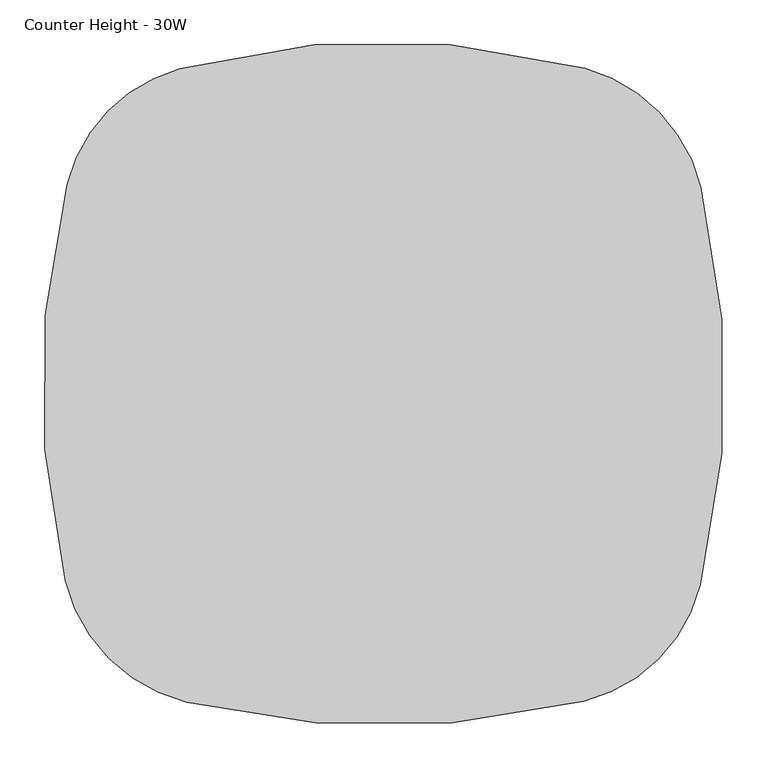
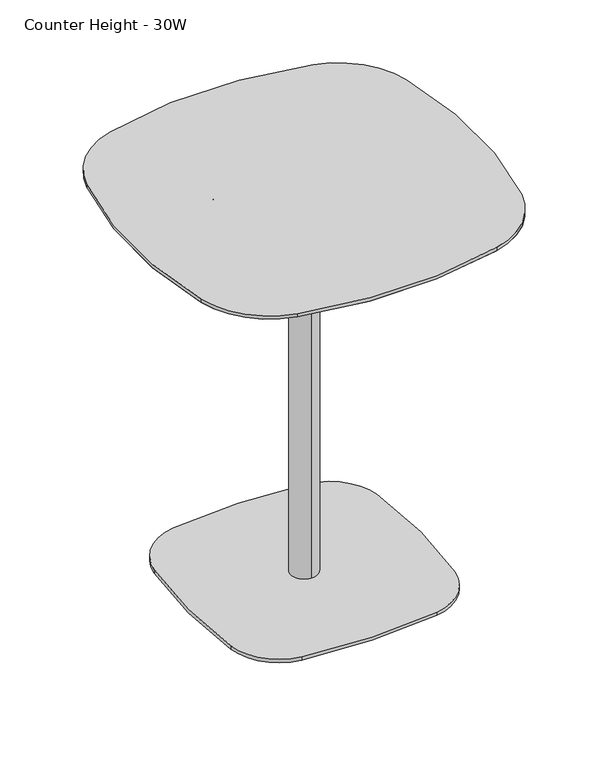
"""IFC4 building model written with IfcOpenShell, lengths in millimetres: furniture geometry, Steelcase Coalesse - Enea Lottus - Table - Cafe : Counter Height - 30W."""

import ifcopenshell
import ifcopenshell.guid

model = None  # the IFC model being written
_history = None  # IfcOwnerHistory: only IFC2X3 demands one
_inside = {}  # id of a spatial element -> (the spatial element, [elements in it])
_under = {}  # id of a project, library or spatial element -> (it, [spatial elements below it])
_declared = {}  # id of a project -> (the project, [libraries it declares])
_typed = {}  # id of a type object -> (the type object, [elements of that type])
_made_of = {}  # id of a material, layer set ... -> (it, [elements and type objects made of it])


def new_model(schema):
    """Start an empty IFC model of exactly this schema.

    Asked for "IFC4X3", IfcOpenShell would pick the latest addendum, in which some entities
    have other attributes; the version numbers below select the first issue.
    IFC2X3 requires an IfcOwnerHistory on every rooted entity: one is made here for all.
    """
    global model, _history
    if schema == "IFC4X3":
        model = ifcopenshell.file(schema_version=(4, 3, 0, 0))
    else:
        model = ifcopenshell.file(schema=schema)
    _inside.clear()
    _under.clear()
    _declared.clear()
    _typed.clear()
    _made_of.clear()
    _history = None
    if model.schema == "IFC2X3":
        org = make("IfcOrganization", Name="unknown")
        user = make(
            "IfcPersonAndOrganization",
            ThePerson=make("IfcPerson", FamilyName="unknown"),
            TheOrganization=org,
        )
        app = make(
            "IfcApplication",
            ApplicationDeveloper=org,
            Version="unknown",
            ApplicationFullName="unknown",
            ApplicationIdentifier="unknown",
        )
        _history = make(
            "IfcOwnerHistory",
            OwningUser=user,
            OwningApplication=app,
            ChangeAction="ADDED",
            CreationDate=0,
        )
    return model


def make(cls, **values):
    """One entity of the class cls with the attributes given. An attribute that is None is left unset."""
    return model.create_entity(
        cls, **{name: value for name, value in values.items() if value is not None}
    )


def rooted(cls, **values):
    """An entity with a GlobalId (a new one), such as an element, a storey or a relation."""
    return make(cls, GlobalId=ifcopenshell.guid.new(), OwnerHistory=_history, **values)


def si_unit(unit_type, name, prefix=None):
    """IfcSIUnit, for example si_unit("LENGTHUNIT", "METRE", prefix="MILLI")."""
    return make("IfcSIUnit", UnitType=unit_type, Prefix=prefix, Name=name)


def assignment(units):
    """IfcUnitAssignment: the units of a project."""
    return None if units is None else make("IfcUnitAssignment", Units=units)


def point(xyz):
    """IfcCartesianPoint."""
    return None if xyz is None else make("IfcCartesianPoint", Coordinates=xyz)


def direction(xyz):
    """IfcDirection."""
    return None if xyz is None else make("IfcDirection", DirectionRatios=xyz)


def frame(location, z_axis=None, x_axis=None):
    """IfcAxis2Placement3D, a coordinate frame: its origin and axes. An axis left out is left unset."""
    return make(
        "IfcAxis2Placement3D",
        Location=point(location),
        Axis=direction(z_axis),
        RefDirection=direction(x_axis),
    )


def frame_2d(location, x_axis=None):
    """IfcAxis2Placement2D, a coordinate frame in the plane: its origin and x axis."""
    return make(
        "IfcAxis2Placement2D", Location=point(location), RefDirection=direction(x_axis)
    )


def origin():
    """The frame at (0, 0, 0) with its axes left unset."""
    return frame((0.0, 0.0, 0.0))


def origin_with_axes():
    """The frame at (0, 0, 0) with the z axis (0, 0, 1) and the x axis (1, 0, 0) written out."""
    return frame((0.0, 0.0, 0.0), z_axis=(0.0, 0.0, 1.0), x_axis=(1.0, 0.0, 0.0))


def place(relative_to, where):
    """IfcLocalPlacement: puts the frame where relative to a parent placement (None: the world)."""
    return make(
        "IfcLocalPlacement", PlacementRelTo=relative_to, RelativePlacement=where
    )


def context(
    kind, dimensions, precision=None, world=None, true_north=None, identifier=None
):
    """IfcGeometricRepresentationContext, for example the 3D "Model" context."""
    return make(
        "IfcGeometricRepresentationContext",
        ContextIdentifier=identifier,
        ContextType=kind,
        CoordinateSpaceDimension=dimensions,
        Precision=precision,
        WorldCoordinateSystem=world,
        TrueNorth=true_north,
    )


def project(units=None, contexts=None):
    """IfcProject with its units and contexts."""
    return rooted(
        "IfcProject",
        Name="project",
        RepresentationContexts=contexts,
        UnitsInContext=assignment(units),
    )


def spatial(cls, under=None, at=None, **own):
    """A site, building, storey or space (cls), placed at a placement, below another one or the project."""
    s = rooted(cls, ObjectPlacement=at, **own)
    if under is not None:
        _under.setdefault(under.id(), (under, []))[1].append(s)
    return s


def polyline(points):
    """IfcPolyline through the points."""
    return make("IfcPolyline", Points=[point(p) for p in points])


def circle_curve(where, radius):
    """IfcCircle in the frame where."""
    return make("IfcCircle", Position=where, Radius=radius)


def trimmed(basis, trim1, trim2, sense, master):
    """IfcTrimmedCurve: the piece of a basis curve between two trims."""
    return make(
        "IfcTrimmedCurve",
        BasisCurve=basis,
        Trim1=trim1,
        Trim2=trim2,
        SenseAgreement=sense,
        MasterRepresentation=master,
    )


def segment(curve, same_sense, transition):
    """IfcCompositeCurveSegment."""
    return make(
        "IfcCompositeCurveSegment",
        Transition=transition,
        SameSense=same_sense,
        ParentCurve=curve,
    )


def composite_curve(segments, self_intersect=None):
    """IfcCompositeCurve: segments joined end to end."""
    return make("IfcCompositeCurve", Segments=segments, SelfIntersect=self_intersect)


def outline(outer, holes=None, kind="AREA"):
    """IfcArbitraryClosedProfileDef: a profile drawn as a closed curve; with holes, ...WithVoids."""
    if holes is None:
        return make("IfcArbitraryClosedProfileDef", ProfileType=kind, OuterCurve=outer)
    return make(
        "IfcArbitraryProfileDefWithVoids",
        ProfileType=kind,
        OuterCurve=outer,
        InnerCurves=holes,
    )


def extrude(swept, where, along, depth):
    """IfcExtrudedAreaSolid: the profile swept, set in the frame where, extruded along a direction by depth."""
    return make(
        "IfcExtrudedAreaSolid",
        SweptArea=swept,
        Position=where,
        ExtrudedDirection=direction(along),
        Depth=depth,
    )


def shape(context_of_items, identifier, shape_type, items):
    """IfcShapeRepresentation: the items that make up one representation, for example the "Body"."""
    return make(
        "IfcShapeRepresentation",
        ContextOfItems=context_of_items,
        RepresentationIdentifier=identifier,
        RepresentationType=shape_type,
        Items=items,
    )


def source(mapping_origin, context_of_items, identifier, shape_type, items):
    """IfcRepresentationMap: a shape defined once, which mapped items show again and again."""
    return make(
        "IfcRepresentationMap",
        MappingOrigin=mapping_origin,
        MappedRepresentation=shape(context_of_items, identifier, shape_type, items),
    )


def transform(
    local_origin,
    x_axis=None,
    y_axis=None,
    z_axis=None,
    scale=None,
    scale2=None,
    scale3=None,
    uniform=True,
):
    """IfcCartesianTransformationOperator3D, or its non-uniform kind. x_axis, y_axis, z_axis: its Axis1, 2, 3."""
    if uniform:
        return make(
            "IfcCartesianTransformationOperator3D",
            Axis1=direction(x_axis),
            Axis2=direction(y_axis),
            LocalOrigin=point(local_origin),
            Scale=scale,
            Axis3=direction(z_axis),
        )
    return make(
        "IfcCartesianTransformationOperator3DnonUniform",
        Axis1=direction(x_axis),
        Axis2=direction(y_axis),
        LocalOrigin=point(local_origin),
        Scale=scale,
        Axis3=direction(z_axis),
        Scale2=scale2,
        Scale3=scale3,
    )


def mapped(mapping_source, mapping_target):
    """IfcMappedItem: shows the shape of a source again, moved by a transform."""
    return make(
        "IfcMappedItem", MappingSource=mapping_source, MappingTarget=mapping_target
    )


def made_of(thing, what):
    """Note that an element or type object is made of a material, layer set ...; save() writes the relation."""
    if what is not None:
        _made_of.setdefault(what.id(), (what, []))[1].append(thing)
    return thing


def element(
    cls,
    number,
    at=None,
    inside=None,
    cuts=None,
    type_object=None,
    material=None,
    context=None,
    identifier="Body",
    shape_type=None,
    held_by="IfcProductDefinitionShape",
    body=None,
    shapes=None,
    **own,
):
    """One element of the class cls, such as IfcWall. Its Tag is "e" and its number.

    at: its placement. inside: the storey or other place that contains it. cuts: it is an
    opening in that element (IfcRelVoidsElement). A single representation is given by context,
    identifier, shape_type and body (its items); several are given by shapes. held_by: the class
    of the entity that holds the representations. save() writes the other relations.
    """
    e = rooted(cls, Tag="e%d" % number, ObjectPlacement=at, **own)
    if body is not None:
        shapes = [shape(context, identifier, shape_type, body)]
    if shapes is not None:
        e.Representation = make(held_by, Representations=shapes)
    if inside is not None:
        _inside.setdefault(inside.id(), (inside, []))[1].append(e)
    if cuts is not None:
        rooted(
            "IfcRelVoidsElement", RelatingBuildingElement=cuts, RelatedOpeningElement=e
        )
    if type_object is not None:
        _typed.setdefault(type_object.id(), (type_object, []))[1].append(e)
    return made_of(e, material)


def aggregate(whole, parts):
    """IfcRelAggregates: a whole, such as a stair, and the parts it consists of."""
    return rooted("IfcRelAggregates", RelatingObject=whole, RelatedObjects=parts)


def save(model, path):
    """Write the relations noted so far, then the file.

    IfcRelAggregates (storeys below a building ...), IfcRelContainedInSpatialStructure (elements
    in a storey), IfcRelDefinesByType, IfcRelAssociatesMaterial and IfcRelDeclares: one each for
    every whole, place, type object, material and project.
    """
    for whole, parts in _under.values():
        aggregate(whole, parts)
    for where, things in _inside.values():
        rooted(
            "IfcRelContainedInSpatialStructure",
            RelatedElements=things,
            RelatingStructure=where,
        )
    for kind, things in _typed.values():
        rooted("IfcRelDefinesByType", RelatedObjects=things, RelatingType=kind)
    for what, things in _made_of.values():
        rooted("IfcRelAssociatesMaterial", RelatedObjects=things, RelatingMaterial=what)
    for by, libraries in _declared.values():
        rooted("IfcRelDeclares", RelatingContext=by, RelatedDefinitions=libraries)
    model.write(path)


def plane_surface(at):
    """IfcPlane: the flat surface through the origin of the frame at, square to its z axis."""
    return make("IfcPlane", Position=at)


def cylinder_surface(at, radius):
    """IfcCylindricalSurface: all points at the distance radius from the z axis of the frame at."""
    return make("IfcCylindricalSurface", Position=at, Radius=radius)


def revolved_surface(curve, axis_point, axis_direction):
    """IfcSurfaceOfRevolution: the curve turned about the line through axis_point along axis_direction."""
    return make(
        "IfcSurfaceOfRevolution",
        SweptCurve=make("IfcArbitraryOpenProfileDef", ProfileType="CURVE", Curve=curve),
        AxisPosition=make("IfcAxis1Placement", Location=point(axis_point), Axis=direction(axis_direction)),
    )


def advanced_brep(points, edges, surfaces, faces):
    """IfcAdvancedBrep: a solid bounded by faces that lie on surfaces and meet in shared edges.

    An edge is (start, end): straight between two places in points (the first is 0);
    or (start, end, curve); or (start, end, curve, False) where it runs against its curve.
    A face is (place in surfaces, loops), or (place, loops, False) where it looks against
    its surface's normal. A loop lists edges by number (the first is 1), with a minus sign
    where the edge is run from its end to its start. The first loop is the outer one.
    """
    corners = [point(p) for p in points]
    vertices = [make("IfcVertexPoint", VertexGeometry=c) for c in corners]
    made = []
    for start, end, *more in edges:
        made.append(
            make(
                "IfcEdgeCurve",
                EdgeStart=vertices[start],
                EdgeEnd=vertices[end],
                EdgeGeometry=more[0] if more else make("IfcPolyline", Points=[corners[start], corners[end]]),
                SameSense=more[1] if len(more) > 1 else True,
            )
        )
    hull = []
    for where, loops, *sense in faces:
        bounds = []
        for j, loop in enumerate(loops):
            ring = [make("IfcOrientedEdge", EdgeElement=made[abs(k) - 1], Orientation=k > 0) for k in loop]
            bounds.append(
                make(
                    "IfcFaceOuterBound" if j == 0 else "IfcFaceBound",
                    Bound=make("IfcEdgeLoop", EdgeList=ring),
                    Orientation=True,
                )
            )
        hull.append(make("IfcAdvancedFace", Bounds=bounds, FaceSurface=surfaces[where], SameSense=sense[0] if sense else True))
    return make("IfcAdvancedBrep", Outer=make("IfcClosedShell", CfsFaces=hull))


def counter_height_30w_7147adb0(model_context):
    return source(origin(), model_context, "Body", "SolidModel", [
        extrude(outline(composite_curve([segment(trimmed(circle_curve(frame_2d((200.7777941, -200.6143905)), 14.5931535), [point((215.3709476, -200.6143905))], [point((186.1846407, -200.6143905))], False, "CARTESIAN"), True, "CONTINUOUS"), segment(trimmed(circle_curve(frame_2d((200.7777941, -200.6143905)), 14.5931535), [point((186.1846407, -200.6143905))], [point((215.3709476, -200.6143905))], False, "CARTESIAN"), True, "CONTINUOUS")], self_intersect=False)), origin_with_axes(), (0.0, 0.0, 1.0), 12.0681503),
        extrude(outline(composite_curve([segment(trimmed(circle_curve(frame_2d((561.2222059, -200.6143905)), 14.5931535), [point((575.8153593, -200.6143905))], [point((546.6290524, -200.6143905))], False, "CARTESIAN"), True, "CONTINUOUS"), segment(trimmed(circle_curve(frame_2d((561.2222059, -200.6143905)), 14.5931535), [point((546.6290524, -200.6143905))], [point((575.8153593, -200.6143905))], False, "CARTESIAN"), True, "CONTINUOUS")], self_intersect=False)), origin_with_axes(), (0.0, 0.0, 1.0), 12.0681503),
        extrude(outline(composite_curve([segment(trimmed(circle_curve(frame_2d((200.7777941, -561.3856095)), 14.5931535), [point((215.3709476, -561.3856095))], [point((186.1846407, -561.3856095))], False, "CARTESIAN"), True, "CONTINUOUS"), segment(trimmed(circle_curve(frame_2d((200.7777941, -561.3856095)), 14.5931535), [point((186.1846407, -561.3856095))], [point((215.3709476, -561.3856095))], False, "CARTESIAN"), True, "CONTINUOUS")], self_intersect=False)), origin_with_axes(), (0.0, 0.0, 1.0), 12.0681503),
        extrude(outline(composite_curve([segment(trimmed(circle_curve(frame_2d((561.2222059, -561.3856095)), 14.5931535), [point((575.8153593, -561.3856095))], [point((546.6290524, -561.3856095))], False, "CARTESIAN"), True, "CONTINUOUS"), segment(trimmed(circle_curve(frame_2d((561.2222059, -561.3856095)), 14.5931535), [point((546.6290524, -561.3856095))], [point((575.8153593, -561.3856095))], False, "CARTESIAN"), True, "CONTINUOUS")], self_intersect=False)), origin_with_axes(), (0.0, 0.0, 1.0), 12.0681503),
        extrude(outline(composite_curve([segment(trimmed(circle_curve(frame_2d((515.9325388, -246.1682383)), 114.3), [point((531.9555748, -132.9968978))], [point((629.1038793, -230.1452024))], False, "CARTESIAN"), True, "CONTINUOUS"), segment(trimmed(circle_curve(frame_2d((-436.38956, -381.0)), 1076.1196212), [point((629.1038793, -230.1452024))], [point((629.1038793, -531.8547976))], False, "CARTESIAN"), True, "CONTINUOUS"), segment(trimmed(circle_curve(frame_2d((515.9325388, -515.8317617)), 114.3), [point((629.1038793, -531.8547976))], [point((531.9555748, -629.0031022))], False, "CARTESIAN"), True, "CONTINUOUS"), segment(trimmed(circle_curve(frame_2d((381.1007771, 436.4903371)), 1076.1196212), [point((531.9555748, -629.0031022))], [point((232.4349074, -629.3107224))], False, "CARTESIAN"), True, "CONTINUOUS"), segment(trimmed(circle_curve(frame_2d((248.5871485, -513.5136286)), 116.9181843), [point((232.4349074, -629.3107224))], [point((132.7900548, -529.6658697))], False, "CARTESIAN"), True, "CONTINUOUS"), segment(trimmed(circle_curve(frame_2d((1198.5911142, -381.0)), 1076.1196212), [point((132.7900548, -529.6658697))], [point((132.3557192, -235.4818861))], False, "CARTESIAN"), True, "CONTINUOUS"), segment(trimmed(circle_curve(frame_2d((251.8975413, -251.7967642)), 120.65), [point((132.3557192, -235.4818861))], [point((235.5826632, -132.254942))], False, "CARTESIAN"), True, "CONTINUOUS"), segment(trimmed(circle_curve(frame_2d((381.1007771, -1198.4903371)), 1076.1196212), [point((235.5826632, -132.254942))], [point((531.9555748, -132.9968978))], False, "CARTESIAN"), True, "CONTINUOUS")], self_intersect=False)), frame((0.0, 0.0, 12.0681503), z_axis=(0.0, 0.0, 1.0), x_axis=(1.0, 0.0, 0.0)), (0.0, 0.0, 1.0), 7.874),
        advanced_brep(
        [(381.0, -410.8613798, 878.0223999), (381.0, -351.1386202, 878.0223999), (381.0, -204.5080839, 898.7439789), (381.0, -557.4919161, 898.7439789), (381.0, -381.0, 878.0223999), (381.0, -557.4919161, 901.6282142), (381.0, -204.5080839, 901.6282142), (381.0, -381.0, 901.6282142)],
        [
            (0, 1, circle_curve(frame((381.0, -381.0, 878.0223999), z_axis=(0.0, 0.0, 1.0), x_axis=(0.0, 1.0, 0.0)), 29.8613798)),
            (1, 2),
            (2, 3, circle_curve(frame((381.0, -381.0, 898.7439789), z_axis=(0.0, 0.0, -1.0), x_axis=(0.0, 1.0, 0.0)), 176.4919161)),
            (3, 0),
            (1, 0, circle_curve(frame((381.0, -381.0, 878.0223999), z_axis=(0.0, 0.0, 1.0), x_axis=(0.0, 1.0, 0.0)), 29.8613798)),
            (3, 2, circle_curve(frame((381.0, -381.0, 898.7439789), z_axis=(0.0, 0.0, -1.0), x_axis=(0.0, 1.0, 0.0)), 176.4919161)),
            (4, 1),
            (0, 4),
            (5, 6, circle_curve(frame((381.0, -381.0, 901.6282142), z_axis=(0.0, 0.0, 1.0), x_axis=(0.0, 1.0, 0.0)), 176.4919161)),
            (6, 7),
            (7, 5),
            (6, 5, circle_curve(frame((381.0, -381.0, 901.6282142), z_axis=(0.0, 0.0, 1.0), x_axis=(0.0, 1.0, 0.0)), 176.4919161)),
            (2, 6),
            (5, 3),
        ],
        [
            revolved_surface(polyline([(381.0, -204.5080839, 898.7439789), (381.0, -351.1386202, 878.0223999)]), (381.0, -381.0, 889.825307), (0.0, 0.0, -1.0)),
            plane_surface(frame((381.0, -381.0, 878.0223999), z_axis=(0.0, 0.0, -1.0), x_axis=(0.0, 1.0, 0.0))),
            plane_surface(frame((381.0, -381.0, 901.6282142), z_axis=(0.0, 0.0, 1.0), x_axis=(0.0, 1.0, 0.0))),
            cylinder_surface(frame((381.0, -381.0, 889.825307), z_axis=(0.0, 0.0, -1.0), x_axis=(0.0, 1.0, 0.0)), 176.4919161),
        ],
        [
            (0, [[1, 2, 3, 4]]),
            (0, [[5, -4, 6, -2]]),
            (1, [[7, -1, 8]]),
            (1, [[-8, -5, -7]]),
            (2, [[9, 10, 11]]),
            (2, [[12, -11, -10]]),
            (3, [[-3, 13, -9, 14]]),
            (3, [[-6, -14, -12, -13]]),
        ],
    ),
        extrude(outline(composite_curve([segment(trimmed(circle_curve(frame_2d((562.041712, -562.0364102)), 177.8), [point((734.6444668, -604.711099))], [point((604.6348721, -734.6593018))], False, "CARTESIAN"), True, "CONTINUOUS"), segment(trimmed(circle_curve(frame_2d((381.0008599, 171.6916196)), 933.5331618), [point((604.6348721, -734.6593018))], [point((161.353241, -735.6336185))], False, "CARTESIAN"), True, "CONTINUOUS"), segment(trimmed(circle_curve(frame_2d((204.6812241, -556.6534286)), 184.15), [point((161.353241, -735.6336185))], [point((25.5793002, -599.4754249))], False, "CARTESIAN"), True, "CONTINUOUS"), segment(trimmed(circle_curve(frame_2d((933.155194, -382.4804828)), 933.1563685), [point((25.5793002, -599.4754249))], [point((27.6449109, -157.0210958))], False, "CARTESIAN"), True, "CONTINUOUS"), segment(trimmed(circle_curve(frame_2d((200.1773329, -199.9792541)), 177.8), [point((27.6449109, -157.0210958))], [point((153.624409, -28.3818611))], False, "CARTESIAN"), True, "CONTINUOUS"), segment(trimmed(circle_curve(frame_2d((380.6603729, -865.2525935)), 867.1204944), [point((153.624409, -28.3818611))], [point((605.7217641, -27.8486755))], False, "CARTESIAN"), True, "CONTINUOUS"), segment(trimmed(circle_curve(frame_2d((558.421215, -203.8436115)), 182.2403891), [point((605.7217641, -27.8486755))], [point((735.5022847, -160.7872045))], False, "CARTESIAN"), True, "CONTINUOUS"), segment(trimmed(circle_curve(frame_2d((-170.1816478, -380.9998789)), 932.0713533), [point((735.5022847, -160.7872045))], [point((734.6444668, -604.711099))], False, "CARTESIAN"), True, "CONTINUOUS")], self_intersect=False)), frame((0.0, 0.0, 906.847009), z_axis=(0.0, 0.0, 1.0), x_axis=(1.0, 0.0, 0.0)), (0.0, 0.0, 1.0), 7.552991),
        extrude(outline(composite_curve([segment(trimmed(circle_curve(frame_2d((381.0, -381.0)), 29.8613798), [point((381.0, -410.8613798))], [point((381.0, -351.1386202))], False, "CARTESIAN"), True, "CONTINUOUS"), segment(trimmed(circle_curve(frame_2d((381.0, -381.0)), 29.8613798), [point((381.0, -351.1386202))], [point((381.0, -410.8613798))], False, "CARTESIAN"), True, "CONTINUOUS")], self_intersect=False)), frame((0.0, 0.0, 19.9421503), z_axis=(0.0, 0.0, 1.0), x_axis=(1.0, 0.0, 0.0)), (0.0, 0.0, 1.0), 858.0802496),
        advanced_brep(
        [(601.5925035, -722.3290953, 901.6282142), (164.3413778, -723.2901571, 901.6282142), (37.931157, -596.5221838, 901.6282142), (39.9686554, -160.0895356, 901.6282142), (156.9496179, -40.6388177, 901.6282142), (602.4254752, -40.1134413, 901.6282142), (723.1618283, -163.7877269, 901.6282142), (722.3156986, -601.6629069, 901.6282142), (604.6348721, -734.6593018, 906.847009), (734.6444668, -604.711099, 906.847009), (735.5022847, -160.7872045, 906.847009), (605.7217641, -27.8486755, 906.847009), (153.624409, -28.3818611, 906.847009), (27.6449109, -157.0210958, 906.847009), (25.5793002, -599.4754249, 906.847009), (161.353241, -735.6336185, 906.847009)],
        [
            (0, 1, circle_curve(frame((381.0008599, 171.6916196, 901.6282142), z_axis=(0.0, 0.0, -1.0), x_axis=(0.23955658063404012, -0.9708824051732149, 0.0)), 920.8331618)),
            (1, 2, circle_curve(frame((204.6812241, -556.6534286, 901.6282142), z_axis=(0.0, 0.0, -1.0), x_axis=(-0.2352863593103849, -0.9719260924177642, 0.0)), 171.45)),
            (2, 3, circle_curve(frame((933.155194, -382.4804828, 901.6282142), z_axis=(0.0, 0.0, -1.0), x_axis=(-0.9725871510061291, -0.23253867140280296, 0.0)), 920.4563685)),
            (3, 4, circle_curve(frame((200.1773329, -199.9792541, 901.6282142), z_axis=(0.0, 0.0, -1.0), x_axis=(-0.9703735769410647, 0.24160943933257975, 0.0)), 165.1)),
            (4, 5, circle_curve(frame((380.6603729, -865.2525935, 901.6282142), z_axis=(0.0, 0.0, -1.0), x_axis=(-0.2618274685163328, 0.9651146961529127, 0.0)), 854.4204944)),
            (5, 6, circle_curve(frame((558.421215, -203.8436115, 901.6282142), z_axis=(0.0, 0.0, -1.0), x_axis=(0.25955030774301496, 0.9657295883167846, 0.0)), 169.5403891)),
            (6, 7, circle_curve(frame((-170.1816478, -380.9998789, 901.6282142), z_axis=(0.0, 0.0, -1.0), x_axis=(0.9716894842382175, 0.23626160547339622, 0.0)), 919.3713533)),
            (7, 0, circle_curve(frame((562.041712, -562.0364102, 901.6282142), z_axis=(0.0, 0.0, -1.0), x_axis=(0.9707691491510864, -0.24001512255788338, 0.0)), 165.1)),
            (8, 9, circle_curve(frame((562.041712, -562.0364102, 906.847009), z_axis=(0.0, 0.0, 1.0), x_axis=(0.9707691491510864, -0.24001512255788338, 0.0)), 177.8)),
            (9, 10, circle_curve(frame((-170.1816478, -380.9998789, 906.847009), z_axis=(0.0, 0.0, 1.0), x_axis=(0.9716894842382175, 0.23626160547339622, 0.0)), 932.0713533)),
            (10, 11, circle_curve(frame((558.421215, -203.8436115, 906.847009), z_axis=(0.0, 0.0, 1.0), x_axis=(0.25955030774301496, 0.9657295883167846, 0.0)), 182.2403891)),
            (11, 12, circle_curve(frame((380.6603729, -865.2525935, 906.847009), z_axis=(0.0, 0.0, 1.0), x_axis=(-0.2618274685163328, 0.9651146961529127, 0.0)), 867.1204944)),
            (12, 13, circle_curve(frame((200.1773329, -199.9792541, 906.847009), z_axis=(0.0, 0.0, 1.0), x_axis=(-0.9703735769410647, 0.24160943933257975, 0.0)), 177.8)),
            (13, 14, circle_curve(frame((933.155194, -382.4804828, 906.847009), z_axis=(0.0, 0.0, 1.0), x_axis=(-0.9725871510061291, -0.23253867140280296, 0.0)), 933.1563685)),
            (14, 15, circle_curve(frame((204.6812241, -556.6534286, 906.847009), z_axis=(0.0, 0.0, 1.0), x_axis=(-0.2352863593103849, -0.9719260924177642, 0.0)), 184.15)),
            (15, 8, circle_curve(frame((381.0008599, 171.6916196, 906.847009), z_axis=(0.0, 0.0, 1.0), x_axis=(0.23955658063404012, -0.9708824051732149, 0.0)), 933.5331618)),
            (15, 1),
            (0, 8),
            (14, 2),
            (13, 3),
            (12, 4),
            (11, 5),
            (10, 6),
            (9, 7),
        ],
        [
            plane_surface(frame((381.0857892, -381.0542331, 901.6282142), z_axis=(0.0, 0.0, -1.0000000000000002), x_axis=(-0.23626160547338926, 0.9716894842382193, 0.0))),
            plane_surface(frame((381.0881561, -381.0647851, 906.847009), z_axis=(0.0, 0.0, 1.0000000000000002), x_axis=(-0.23626160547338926, 0.9716894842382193, 0.0))),
            revolved_surface(polyline([(601.5925035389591, -722.3290953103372, 901.6282142), (604.6348721, -734.6593018, 906.847009)]), (381.0008599, 171.6916196, 523.2314159), (0.0, 0.0, 1.0)),
            revolved_surface(polyline([(164.34137775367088, -723.2901571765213, 901.6282142), (161.353241, -735.6336185, 906.847009)]), (204.6812241, -556.6534286, 831.1744841), (0.0, 0.0, 1.0)),
            revolved_surface(polyline([(37.931156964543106, -596.5221837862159, 901.6282142), (25.579300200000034, -599.4754249, 906.847009)]), (933.155194, -382.4804828, 523.3862512), (0.0, 0.0, 1.0)),
            revolved_surface(polyline([(39.96865527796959, -160.08953566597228, 901.6282142), (27.644910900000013, -157.0210958, 906.847009)]), (200.1773329, -199.9792541, 833.7838815), (0.0, 0.0, 1.0)),
            revolved_surface(polyline([(156.9496178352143, -40.63881768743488, 901.6282142), (153.624409, -28.381861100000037, 906.847009)]), (380.6603729, -865.2525935, 550.5222888), (0.0, 0.0, 1.0)),
            revolved_surface(polyline([(602.4254752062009, -40.11344121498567, 901.6282142), (605.7217641, -27.848675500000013, 906.847009)]), (558.421215, -203.8436115, 831.959198), (0.0, 0.0, 1.0)),
            revolved_surface(polyline([(723.1618283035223, -163.78772687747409, 901.6282142), (735.5022847, -160.7872045, 906.847009)]), (-170.1816478, -380.9998789, 523.8321151), (0.0, 0.0, 1.0)),
            revolved_surface(polyline([(722.3156986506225, -601.6629069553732, 901.6282142), (734.6444668, -604.711099, 906.847009)]), (562.041712, -562.0364102, 833.7838815), (0.0, 0.0, 1.0)),
        ],
        [
            (0, [[1, 2, 3, 4, 5, 6, 7, 8]]),
            (1, [[9, 10, 11, 12, 13, 14, 15, 16]]),
            (2, [[-16, 17, -1, 18]]),
            (3, [[-15, 19, -2, -17]]),
            (4, [[-14, 20, -3, -19]]),
            (5, [[-13, 21, -4, -20]]),
            (6, [[-12, 22, -5, -21]]),
            (7, [[-11, 23, -6, -22]]),
            (8, [[-10, 24, -7, -23]]),
            (9, [[-9, -18, -8, -24]]),
        ],
    ),
    ])


if __name__ == "__main__":
    model = new_model("IFC4")
    model_context = context("Model", 3, world=origin())
    ifc_project = project(units=[si_unit("LENGTHUNIT", "METRE", prefix="MILLI")], contexts=[model_context])
    site = spatial("IfcSite", under=ifc_project)
    building = spatial("IfcBuilding", under=site)
    placement = place(None, origin())
    counter_height_30w_shape = counter_height_30w_7147adb0(model_context)
    element("IfcFurniture", 1, ObjectType="Steelcase Coalesse - Enea Lottus - Table - Cafe : Counter Height - 30W", at=placement, inside=building, context=model_context, shape_type="MappedRepresentation", body=[
        mapped(counter_height_30w_shape, transform((0.0, 0.0, 0.0), x_axis=(1.0, 0.0, 0.0), y_axis=(0.0, 1.0, 0.0), z_axis=(0.0, 0.0, 1.0))),
    ])
    save(model, "model.ifc")
